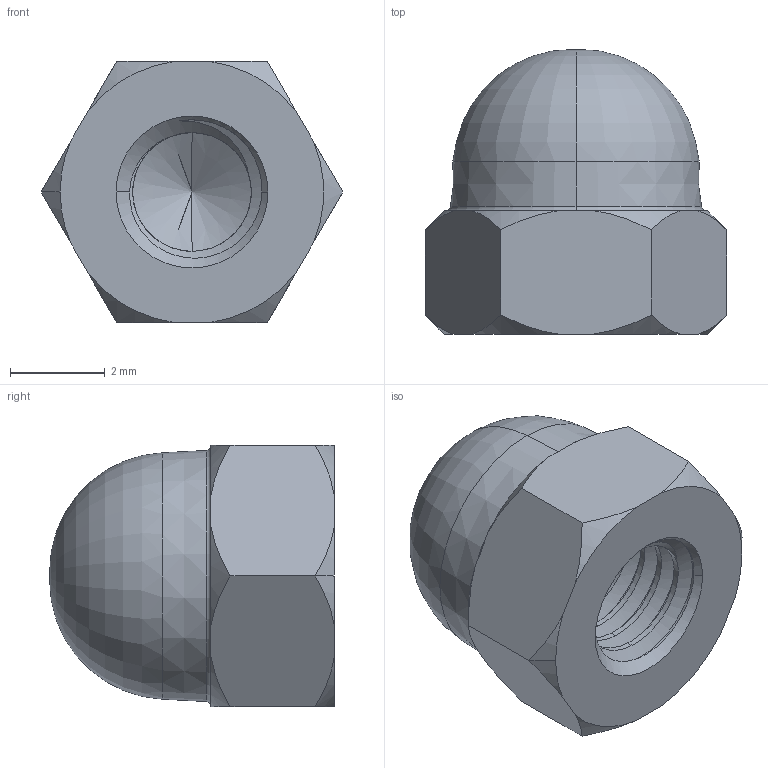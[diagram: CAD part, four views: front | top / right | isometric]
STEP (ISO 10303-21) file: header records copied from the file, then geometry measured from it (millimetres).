
FILE_DESCRIPTION (( 'STEP AP203' ), '1' );
FILE_NAME ('TAN_BAU_M3.STEP', '2026-08-24T08:29:52', ( '' ), ( '' ), 'SwSTEP 2.0', 'SolidWorks 2020', '' );
FILE_SCHEMA (( 'CONFIG_CONTROL_DESIGN' ));
Length unit declared in the file: millimetre
Products named in the file (1): TAN_BAU_M3
Bounding box: 6.35 x 6 x 5.5 mm (x, y, z)
Volume: 94 mm3; surface area: 193 mm2
Topology: 1 solids, 1 shells, 53 faces, 142 edges, 91 vertices
Faces by surface type: cone 20, cylinder 16, plane 10, torus 4, bspline 3
Entity records: 2838 total; most frequent: CARTESIAN_POINT 1593, ORIENTED_EDGE 280, DIRECTION 209, EDGE_CURVE 140, VERTEX_POINT 91, AXIS2_PLACEMENT_3D 83, EDGE_LOOP 55, FACE_OUTER_BOUND 53
